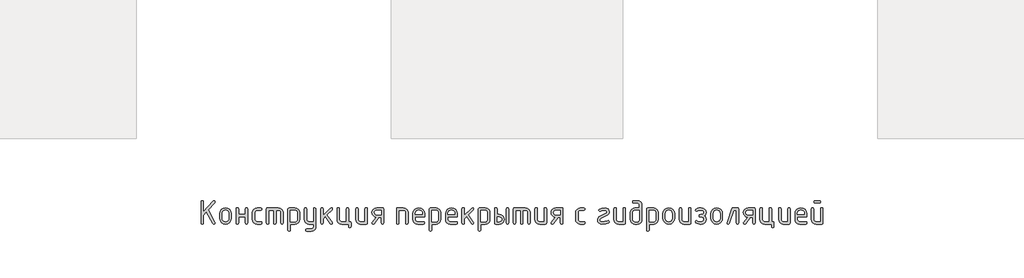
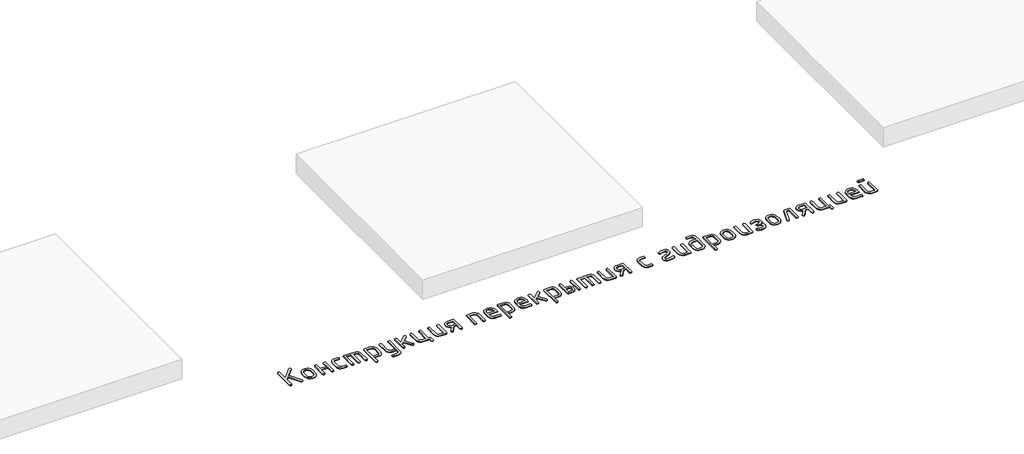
# One storey, part 39 of 42: 1 proxy.
"""IFC4 building model written with IfcOpenShell, lengths in millimetres."""

from ifc_helpers import new_model, si_unit, origin, origin_with_axes, place, context, project, spatial, polyline, outline, extrude, element, save

model = new_model("IFC4")

# Units and contexts
model_context = context("Model", 3, world=origin())
ifc_project = project(units=[si_unit("LENGTHUNIT", "METRE", prefix="MILLI")], contexts=[model_context])

# Site, building, storey
site = spatial("IfcSite", under=ifc_project)
building = spatial("IfcBuilding", under=site)
storey = spatial("IfcBuildingStorey", under=building, Name="Этаж 01", Elevation=0.0)

# Proxy
placement = place(None, origin())
element("IfcBuildingElementProxy", 1, Name="300 мм GOST Common", ObjectType="300 мм GOST Common", at=placement, inside=storey, context=model_context, shape_type="SweptSolid", body=[
    extrude(outline(polyline([(56921.8621686, -44881.6473453), (56882.6408818, -44925.0651484), (56882.6408818, -45025.700837), (56878.7671745, -45037.1403789), (56867.1460525, -45040.9535596), (56855.5249305, -45037.1403789), (56851.6512231, -45025.700837), (56851.6512231, -44751.4746384), (56855.5249305, -44740.0350964), (56867.1460525, -44736.2219157), (56878.7671745, -44740.0350964), (56882.6408818, -44751.4746384), (56882.6408818, -44879.5490872), (57007.4872412, -44741.3061566), (57019.027661, -44736.2219157), (57030.3461496, -44740.0350964), (57034.1189792, -44751.4746384), (57030.0031651, -44761.8852268), (56943.4903679, -44857.6787812), (57032.1014233, -45018.1148267), (57034.1189792, -45025.700837), (57029.4382495, -45036.2324788), (57019.027661, -45040.9535596), (57011.0381396, -45038.9360037), (57005.4696853, -45032.883336), (56921.8621686, -44881.6473453)])), origin_with_axes(), (0.0, 0.0, 1.0), 10.0),
    extrude(outline(polyline([(57094.4035496, -44965.3355643), (57094.4035496, -44904.8088871), (57099.8812139, -44875.7359065), (57116.3142067, -44851.3033045), (57140.5147898, -44834.718995), (57169.2952248, -44829.1908918), (57198.3782932, -44834.6584683), (57222.5183496, -44851.0611978), (57238.7697624, -44875.4332732), (57244.1869, -44904.8088871), (57244.1869, -44965.3355643), (57238.7092357, -44994.4085449), (57222.2762429, -45018.8411469), (57198.0756598, -45035.4254564), (57169.2952248, -45040.9535596), (57140.5147898, -45035.4254564), (57116.3142067, -45018.8411469), (57099.8812139, -44994.4085449), (57094.4035496, -44965.3355643)]), holes=[polyline([(57213.1972413, -44964.4478397), (57213.1972413, -44903.8404603), (57209.9792396, -44886.4087773), (57200.3252346, -44871.7209703), (57186.1317288, -44861.7340686), (57169.2952248, -44858.4051013), (57152.4587208, -44861.7340686), (57138.265215, -44871.7209703), (57128.61121, -44886.4087773), (57125.3932083, -44903.8404603), (57125.3932083, -44964.4478397), (57128.5809466, -44982.0409272), (57138.1441616, -44996.7287342), (57152.3074041, -45006.6551092), (57169.2952248, -45009.9639009), (57186.1317288, -45006.6349337), (57200.3252346, -44996.6480319), (57209.9792396, -44981.9400494), (57213.1972413, -44964.4478397)])]), origin_with_axes(), (0.0, 0.0, 1.0), 10.0),
    extrude(outline(polyline([(57337.1558761, -44947.9845835), (57337.1558761, -45025.4587302), (57333.2821688, -45037.0798523), (57321.6610467, -45040.9535596), (57310.0399247, -45037.1807301), (57306.1662174, -45025.8622414), (57306.1662174, -44844.28221), (57310.0399247, -44832.9637214), (57321.6610467, -44829.1908918), (57333.2821688, -44832.842668), (57337.1558761, -44843.7979966), (57337.1558761, -44916.9949248), (57424.9599091, -44916.9949248), (57424.9599091, -44843.7979966), (57428.8336164, -44832.842668), (57440.4547384, -44829.1908918), (57452.0758604, -44832.9637214), (57455.9495678, -44844.28221), (57455.9495678, -45025.8622414), (57452.0758604, -45037.1807301), (57440.4547384, -45040.9535596), (57428.8336164, -45037.0798523), (57424.9599091, -45025.4587302), (57424.9599091, -44947.9845835), (57337.1558761, -44947.9845835)])), origin_with_axes(), (0.0, 0.0, 1.0), 10.0),
    extrude(outline(polyline([(57548.9185439, -44890.1210801), (57548.9185439, -44980.0233713), (57551.1580309, -44991.4326499), (57557.8764921, -45001.127006), (57567.6818138, -45007.7546772), (57579.1818824, -45009.9639009), (57624.6979437, -45009.9639009), (57636.0164323, -45013.8376082), (57639.7892618, -45025.4587302), (57636.0164323, -45037.0798523), (57624.6979437, -45040.9535596), (57579.1818824, -45040.9535596), (57555.637005, -45036.5754633), (57535.8447816, -45023.4411743), (57522.4078593, -45003.9314087), (57517.9288852, -44980.4268824), (57517.9288852, -44889.717569), (57522.4078593, -44866.2130427), (57535.8447816, -44846.7032771), (57555.637005, -44833.5689881), (57579.1818824, -44829.1908918), (57624.6979437, -44829.1908918), (57636.0164323, -44833.0645992), (57639.7892618, -44844.6857212), (57636.0164323, -44856.3068432), (57624.6979437, -44860.1805505), (57579.1818824, -44860.1805505), (57567.5304971, -44862.3695987), (57557.7554387, -44868.9367431), (57551.1277676, -44878.6109237), (57548.9185439, -44890.1210801)])), origin_with_axes(), (0.0, 0.0, 1.0), 10.0),
    extrude(outline(polyline([(57714.1967236, -44829.1908918), (57853.6501877, -44829.1908918), (57877.5380497, -44833.5992515), (57897.5522042, -44846.8243304), (57911.1101799, -44866.3643594), (57915.6295051, -44889.717569), (57915.6295051, -45025.8622414), (57911.7557978, -45037.1807301), (57900.1346758, -45040.9535596), (57888.5135538, -45037.1807301), (57884.6398464, -45025.8622414), (57884.6398464, -44890.2824846), (57882.4104472, -44878.550397), (57875.7222493, -44868.8560409), (57865.7454354, -44862.3494231), (57853.6501877, -44860.1805505), (57822.660529, -44860.1805505), (57822.660529, -45025.8622414), (57818.7868217, -45037.1807301), (57807.1656997, -45040.9535596), (57795.5445777, -45037.1807301), (57791.6708703, -45025.8622414), (57791.6708703, -44860.1805505), (57729.6915529, -44860.1805505), (57729.6915529, -45025.8622414), (57725.8178456, -45037.1807301), (57714.1967236, -45040.9535596), (57702.5756016, -45037.1807301), (57698.7018942, -45025.8622414), (57698.7018942, -44844.28221), (57702.5756016, -44832.9637214), (57714.1967236, -44829.1908918)])), origin_with_axes(), (0.0, 0.0, 1.0), 10.0),
    extrude(outline(polyline([(57977.6088225, -44844.4436145), (57981.3614765, -44833.0040725), (57992.6194385, -44829.1908918), (58067.5111137, -44829.1908918), (58090.7331821, -44833.5689881), (58110.0411921, -44846.7032771), (58123.0544277, -44866.2130427), (58127.3921729, -44889.717569), (58127.3921729, -44980.4268824), (58123.0846911, -45003.780092), (58110.1622455, -45023.320121), (58091.0055522, -45036.5451999), (58067.9953271, -45040.9535596), (58008.5984812, -45040.9535596), (58008.5984812, -45118.4277063), (58004.7247739, -45130.0488284), (57993.1036519, -45133.9225357), (57981.4825299, -45130.109355), (57977.6088225, -45118.669813), (57977.6088225, -44844.4436145)]), holes=[polyline([(58008.5984812, -44860.1805505), (58008.5984812, -45009.9639009), (58067.1076025, -45009.9639009), (58078.38574, -45007.7748527), (58087.8480772, -45001.2077083), (58094.263905, -44991.5335277), (58096.4025142, -44980.0233713), (58096.4025142, -44890.1210801), (58094.2941683, -44878.459607), (58087.9691305, -44868.8156898), (58078.5370567, -44862.3393353), (58067.1076025, -44860.1805505), (58008.5984812, -44860.1805505)])]), origin_with_axes(), (0.0, 0.0, 1.0), 10.0),
    extrude(outline(polyline([(58308.165182, -45072.4274317), (58308.165182, -45040.9535596), (58248.7683362, -45040.9535596), (58225.7581111, -45036.5451999), (58206.6014177, -45023.320121), (58193.6789722, -45003.780092), (58189.3714903, -44980.4268824), (58189.3714903, -44844.28221), (58193.2451976, -44832.9637214), (58204.8663197, -44829.1908918), (58216.4874417, -44832.9637214), (58220.361149, -44844.28221), (58220.361149, -44979.8619668), (58222.5199338, -44991.291421), (58228.9962883, -45001.0463038), (58238.478801, -45007.7345016), (58249.6560607, -45009.9639009), (58308.165182, -45009.9639009), (58308.165182, -44844.28221), (58312.0388893, -44832.9637214), (58323.6600113, -44829.1908918), (58335.2811334, -44833.0040725), (58339.1548407, -44844.4436145), (58339.1548407, -45072.9923474), (58334.9078855, -45096.4464348), (58322.16702, -45116.1276926), (58303.2322578, -45129.4738249), (58280.4036127, -45133.9225357), (58220.361149, -45133.9225357), (58208.9821337, -45130.0488284), (58205.1891286, -45118.4277063), (58209.7891561, -45107.6136067), (58220.361149, -45102.932877), (58278.8702703, -45102.932877), (58290.2997245, -45100.7640044), (58299.7317983, -45094.2573866), (58306.0568361, -45084.4621527), (58308.165182, -45072.4274317)])), origin_with_axes(), (0.0, 0.0, 1.0), 10.0),
    extrude(outline(polyline([(58432.1238168, -44928.6160468), (58527.3524555, -44833.5488126), (58538.1665551, -44829.1908918), (58549.5455705, -44832.9637214), (58553.3385756, -44844.28221), (58548.7385481, -44854.8542029), (58482.1592032, -44921.3528456), (58550.3525928, -45017.1463999), (58553.3385756, -45026.0236459), (58549.5455705, -45037.2210812), (58538.1665551, -45040.9535596), (58531.0244072, -45039.3395149), (58525.5770063, -45034.4973807), (58460.3695995, -44942.9003426), (58432.1238168, -44971.1461253), (58432.1238168, -45025.7815392), (58428.2501094, -45037.1605545), (58416.6289874, -45040.9535596), (58405.0078654, -45037.1807301), (58401.1341581, -45025.8622414), (58401.1341581, -44844.28221), (58405.0078654, -44832.9637214), (58416.6289874, -44829.1908918), (58428.2501094, -44832.9637214), (58432.1238168, -44844.28221), (58432.1238168, -44928.6160468)])), origin_with_axes(), (0.0, 0.0, 1.0), 10.0),
    extrude(outline(polyline([(58778.1750056, -45009.9639009), (58789.7961276, -45013.8376082), (58793.6698349, -45025.4587302), (58793.6698349, -45071.9432183), (58789.7961276, -45083.5643403), (58778.1750056, -45087.4380476), (58766.5538836, -45083.5643403), (58762.6801762, -45071.9432183), (58762.6801762, -45040.9535596), (58672.7778851, -45040.9535596), (58649.5558167, -45036.5451999), (58630.2478066, -45023.320121), (58617.2345711, -45003.780092), (58612.8968259, -44980.4268824), (58612.8968259, -44844.28221), (58616.7705332, -44832.9637214), (58628.3916552, -44829.1908918), (58640.0127772, -44832.9637214), (58643.8864846, -44844.28221), (58643.8864846, -44979.8619668), (58646.0452694, -44991.291421), (58652.5216238, -45001.0463038), (58662.0041366, -45007.7345016), (58673.1813963, -45009.9639009), (58731.6905175, -45009.9639009), (58731.6905175, -44844.28221), (58735.5642249, -44832.9637214), (58747.1853469, -44829.1908918), (58758.8064689, -44832.9637214), (58762.6801762, -44844.28221), (58762.6801762, -45009.9639009), (58778.1750056, -45009.9639009)])), origin_with_axes(), (0.0, 0.0, 1.0), 10.0),
    extrude(outline(polyline([(59005.4325027, -44844.28221), (59005.4325027, -45025.8622414), (59001.6798487, -45037.1807301), (58990.4218868, -45040.9535596), (58915.5302116, -45040.9535596), (58892.3081431, -45036.5754633), (58873.0001331, -45023.4411743), (58859.9868975, -45003.9314087), (58855.6491523, -44980.4268824), (58855.6491523, -44844.28221), (58859.5228597, -44832.9637214), (58871.1439817, -44829.1908918), (58882.7651037, -44832.9637214), (58886.638811, -44844.28221), (58886.638811, -44979.8619668), (58888.7975959, -44991.291421), (58895.2739503, -45001.0463038), (58904.7564631, -45007.7345016), (58915.9337228, -45009.9639009), (58974.442844, -45009.9639009), (58974.442844, -44844.28221), (58978.3165514, -44832.9637214), (58989.9376734, -44829.1908918), (59001.5587954, -44832.9637214), (59005.4325027, -44844.28221)])), origin_with_axes(), (0.0, 0.0, 1.0), 10.0),
    extrude(outline(polyline([(59118.980549, -44949.7600327), (59097.6045442, -44943.4551705), (59080.2838268, -44930.0283359), (59068.8140215, -44911.4567338), (59064.990753, -44889.717569), (59069.3890249, -44866.2130427), (59082.5838405, -44846.7032771), (59102.1339572, -44833.5689881), (59125.5981324, -44829.1908918), (59201.7003411, -44829.1908918), (59213.3214632, -44832.9637214), (59217.1951705, -44844.28221), (59217.1951705, -45025.8622414), (59213.3214632, -45037.1807301), (59201.7003411, -45040.9535596), (59190.0792191, -45037.1605545), (59186.2055118, -45025.7815392), (59186.2055118, -44950.0828416), (59155.4579598, -44950.0828416), (59092.3488111, -45034.7394874), (59087.002288, -45039.4000415), (59080.1627734, -45040.9535596), (59068.7837581, -45037.1807301), (59064.990753, -45025.8622414), (59067.9767358, -45016.6621865), (59118.980549, -44949.7600327)]), holes=[polyline([(59095.3347938, -44890.5245913), (59097.5742809, -44902.02466), (59104.2927421, -44911.8299817), (59114.0980638, -44918.5484428), (59125.5981324, -44920.7879299), (59186.2055118, -44920.7879299), (59186.2055118, -44860.1805505), (59125.5981324, -44860.1805505), (59113.9467471, -44862.3897742), (59104.1716887, -44869.0174454), (59097.5440176, -44878.8126793), (59095.3347938, -44890.5245913)])]), origin_with_axes(), (0.0, 0.0, 1.0), 10.0),
    extrude(outline(polyline([(59382.4733502, -45025.8622414), (59382.4733502, -44844.28221), (59386.2260042, -44832.9637214), (59397.4839662, -44829.1908918), (59472.3756413, -44829.1908918), (59495.4463931, -44833.5992515), (59514.7846665, -44846.8243304), (59527.8886921, -44866.3643594), (59532.2567006, -44889.717569), (59532.2567006, -45025.8622414), (59528.3829933, -45037.1807301), (59516.7618713, -45040.9535596), (59505.1407492, -45037.1807301), (59501.2670419, -45025.8622414), (59501.2670419, -44890.2824846), (59499.158696, -44878.550397), (59492.8336582, -44868.8560409), (59483.4015844, -44862.3494231), (59471.9721302, -44860.1805505), (59413.4630089, -44860.1805505), (59413.4630089, -45025.8622414), (59409.5893016, -45037.1807301), (59397.9681796, -45040.9535596), (59386.3470576, -45037.1807301), (59382.4733502, -45025.8622414)])), origin_with_axes(), (0.0, 0.0, 1.0), 10.0),
    extrude(outline(polyline([(59625.2256767, -44947.9845835), (59625.2256767, -44978.9742422), (59627.4651638, -44990.7668565), (59634.1836249, -45000.8041971), (59643.9889466, -45007.6739749), (59655.4890153, -45009.9639009), (59731.2684151, -45009.9639009), (59742.6474304, -45013.8376082), (59746.4404355, -45025.4587302), (59742.6474304, -45037.0798523), (59731.2684151, -45040.9535596), (59655.4890153, -45040.9535596), (59631.9441379, -45036.5754633), (59612.1519144, -45023.4411743), (59598.7149921, -45003.9314087), (59594.236018, -44980.4268824), (59594.236018, -44904.8088871), (59599.8549112, -44875.7359065), (59616.7115908, -44851.3033045), (59641.4367384, -44834.718995), (59670.6610357, -44829.1908918), (59700.1072641, -44834.5575905), (59724.5297783, -44850.6576866), (59740.9627712, -44874.5858997), (59746.4404355, -44903.4369491), (59746.4404355, -44947.9845835), (59625.2256767, -44947.9845835)]), holes=[polyline([(59670.6610357, -44856.3875454), (59653.2293527, -44859.7165127), (59638.5415457, -44869.7034144), (59628.5546439, -44884.3912214), (59625.2256767, -44901.8229044), (59625.2256767, -44916.9949248), (59716.0963947, -44916.9949248), (59716.0963947, -44901.8229044), (59712.7674274, -44884.3912214), (59702.7805257, -44869.7034144), (59688.0927187, -44859.7165127), (59670.6610357, -44856.3875454)])]), origin_with_axes(), (0.0, 0.0, 1.0), 10.0),
    extrude(outline(polyline([(59805.9986858, -44844.4436145), (59809.7513398, -44833.0040725), (59821.0093017, -44829.1908918), (59895.9009769, -44829.1908918), (59919.1230454, -44833.5689881), (59938.4310554, -44846.7032771), (59951.444291, -44866.2130427), (59955.7820362, -44889.717569), (59955.7820362, -44980.4268824), (59951.4745543, -45003.780092), (59938.5521087, -45023.320121), (59919.3954154, -45036.5451999), (59896.3851903, -45040.9535596), (59836.9883445, -45040.9535596), (59836.9883445, -45118.4277063), (59833.1146371, -45130.0488284), (59821.4935151, -45133.9225357), (59809.8723931, -45130.109355), (59805.9986858, -45118.669813), (59805.9986858, -44844.4436145)]), holes=[polyline([(59836.9883445, -44860.1805505), (59836.9883445, -45009.9639009), (59895.4974657, -45009.9639009), (59906.7756032, -45007.7748527), (59916.2379404, -45001.2077083), (59922.6537682, -44991.5335277), (59924.7923775, -44980.0233713), (59924.7923775, -44890.1210801), (59922.6840315, -44878.459607), (59916.3589938, -44868.8156898), (59906.9269199, -44862.3393353), (59895.4974657, -44860.1805505), (59836.9883445, -44860.1805505)])]), origin_with_axes(), (0.0, 0.0, 1.0), 10.0),
    extrude(outline(polyline([(60048.7510123, -44947.9845835), (60048.7510123, -44978.9742422), (60050.9904993, -44990.7668565), (60057.7089605, -45000.8041971), (60067.5142822, -45007.6739749), (60079.0143508, -45009.9639009), (60154.7937506, -45009.9639009), (60166.1727659, -45013.8376082), (60169.965771, -45025.4587302), (60166.1727659, -45037.0798523), (60154.7937506, -45040.9535596), (60079.0143508, -45040.9535596), (60055.4694734, -45036.5754633), (60035.67725, -45023.4411743), (60022.2403277, -45003.9314087), (60017.7613536, -44980.4268824), (60017.7613536, -44904.8088871), (60023.3802467, -44875.7359065), (60040.2369263, -44851.3033045), (60064.9620739, -44834.718995), (60094.1863712, -44829.1908918), (60123.6325997, -44834.5575905), (60148.0551139, -44850.6576866), (60164.4881067, -44874.5858997), (60169.965771, -44903.4369491), (60169.965771, -44947.9845835), (60048.7510123, -44947.9845835)]), holes=[polyline([(60094.1863712, -44856.3875454), (60076.7546882, -44859.7165127), (60062.0668812, -44869.7034144), (60052.0799795, -44884.3912214), (60048.7510123, -44901.8229044), (60048.7510123, -44916.9949248), (60139.6217302, -44916.9949248), (60139.6217302, -44901.8229044), (60136.292763, -44884.3912214), (60126.3058612, -44869.7034144), (60111.6180542, -44859.7165127), (60094.1863712, -44856.3875454)])]), origin_with_axes(), (0.0, 0.0, 1.0), 10.0),
    extrude(outline(polyline([(60260.51368, -44928.6160468), (60355.7423187, -44833.5488126), (60366.5564184, -44829.1908918), (60377.9354337, -44832.9637214), (60381.7284388, -44844.28221), (60377.1284113, -44854.8542029), (60310.5490665, -44921.3528456), (60378.7424561, -45017.1463999), (60381.7284388, -45026.0236459), (60377.9354337, -45037.2210812), (60366.5564184, -45040.9535596), (60359.4142705, -45039.3395149), (60353.9668695, -45034.4973807), (60288.7594627, -44942.9003426), (60260.51368, -44971.1461253), (60260.51368, -45025.7815392), (60256.6399727, -45037.1605545), (60245.0188507, -45040.9535596), (60233.3977287, -45037.1807301), (60229.5240213, -45025.8622414), (60229.5240213, -44844.28221), (60233.3977287, -44832.9637214), (60245.0188507, -44829.1908918), (60256.6399727, -44832.9637214), (60260.51368, -44844.28221), (60260.51368, -44928.6160468)])), origin_with_axes(), (0.0, 0.0, 1.0), 10.0),
    extrude(outline(polyline([(60441.2866891, -44844.4436145), (60445.0393431, -44833.0040725), (60456.297305, -44829.1908918), (60531.1889802, -44829.1908918), (60554.4110487, -44833.5689881), (60573.7190587, -44846.7032771), (60586.7322943, -44866.2130427), (60591.0700395, -44889.717569), (60591.0700395, -44980.4268824), (60586.7625576, -45003.780092), (60573.8401121, -45023.320121), (60554.6834187, -45036.5451999), (60531.6731936, -45040.9535596), (60472.2763478, -45040.9535596), (60472.2763478, -45118.4277063), (60468.4026405, -45130.0488284), (60456.7815185, -45133.9225357), (60445.1603964, -45130.109355), (60441.2866891, -45118.669813), (60441.2866891, -44844.4436145)]), holes=[polyline([(60472.2763478, -44860.1805505), (60472.2763478, -45009.9639009), (60530.785469, -45009.9639009), (60542.0636066, -45007.7748527), (60551.5259437, -45001.2077083), (60557.9417715, -44991.5335277), (60560.0803808, -44980.0233713), (60560.0803808, -44890.1210801), (60557.9720349, -44878.459607), (60551.6469971, -44868.8156898), (60542.2149232, -44862.3393353), (60530.785469, -44860.1805505), (60472.2763478, -44860.1805505)])]), origin_with_axes(), (0.0, 0.0, 1.0), 10.0),
    extrude(outline(polyline([(60802.8327073, -44844.28221), (60806.7064146, -44832.9637214), (60818.3275366, -44829.1908918), (60829.9486586, -44832.9637214), (60833.822366, -44844.28221), (60833.822366, -45025.8622414), (60829.9486586, -45037.1807301), (60818.3275366, -45040.9535596), (60806.7064146, -45037.1807301), (60802.8327073, -45025.8622414), (60802.8327073, -44844.28221)])), origin_with_axes(), (0.0, 0.0, 1.0), 10.0),
    extrude(outline(polyline([(60774.9097335, -44978.9742422), (60770.5215494, -45003.0134208), (60757.3569972, -45022.997312), (60737.8169682, -45036.4644977), (60714.3023542, -45040.9535596), (60668.5441862, -45040.9535596), (60656.9230642, -45037.1807301), (60653.0493569, -45025.8622414), (60653.0493569, -44844.28221), (60656.9230642, -44832.9637214), (60668.5441862, -44829.1908918), (60680.1653082, -44832.842668), (60684.0390156, -44843.7979966), (60684.0390156, -44916.9949248), (60714.3023542, -44916.9949248), (60737.8169682, -44921.4839867), (60757.3569972, -44934.9511723), (60770.5215494, -44954.9350636), (60774.9097335, -44978.9742422)]), holes=[polyline([(60744.646395, -44978.9742422), (60742.4674346, -44966.8789945), (60735.9305535, -44956.9021806), (60726.1655829, -44950.2139828), (60714.3023542, -44947.9845835), (60684.0390156, -44947.9845835), (60684.0390156, -45009.9639009), (60714.3023542, -45009.9639009), (60726.0142662, -45007.7042383), (60735.8095001, -45000.9252504), (60742.4371712, -44990.9181732), (60744.646395, -44978.9742422)])]), origin_with_axes(), (0.0, 0.0, 1.0), 10.0),
    extrude(outline(polyline([(60911.2965127, -44829.1908918), (61050.7499769, -44829.1908918), (61074.6378388, -44833.5992515), (61094.6519933, -44846.8243304), (61108.209969, -44866.3643594), (61112.7292943, -44889.717569), (61112.7292943, -45025.8622414), (61108.8555869, -45037.1807301), (61097.2344649, -45040.9535596), (61085.6133429, -45037.1807301), (61081.7396356, -45025.8622414), (61081.7396356, -44890.2824846), (61079.5102363, -44878.550397), (61072.8220385, -44868.8560409), (61062.8452245, -44862.3494231), (61050.7499769, -44860.1805505), (61019.7603182, -44860.1805505), (61019.7603182, -45025.8622414), (61015.8866108, -45037.1807301), (61004.2654888, -45040.9535596), (60992.6443668, -45037.1807301), (60988.7706595, -45025.8622414), (60988.7706595, -44860.1805505), (60926.7913421, -44860.1805505), (60926.7913421, -45025.8622414), (60922.9176347, -45037.1807301), (60911.2965127, -45040.9535596), (60899.6753907, -45037.1807301), (60895.8016834, -45025.8622414), (60895.8016834, -44844.28221), (60899.6753907, -44832.9637214), (60911.2965127, -44829.1908918)])), origin_with_axes(), (0.0, 0.0, 1.0), 10.0),
    extrude(outline(polyline([(61324.491962, -44844.28221), (61324.491962, -45025.8622414), (61320.739308, -45037.1807301), (61309.4813461, -45040.9535596), (61234.5896709, -45040.9535596), (61211.3676024, -45036.5754633), (61192.0595924, -45023.4411743), (61179.0463568, -45003.9314087), (61174.7086116, -44980.4268824), (61174.7086116, -44844.28221), (61178.582319, -44832.9637214), (61190.203441, -44829.1908918), (61201.824563, -44832.9637214), (61205.6982703, -44844.28221), (61205.6982703, -44979.8619668), (61207.8570552, -44991.291421), (61214.3334096, -45001.0463038), (61223.8159224, -45007.7345016), (61234.9931821, -45009.9639009), (61293.5023033, -45009.9639009), (61293.5023033, -44844.28221), (61297.3760107, -44832.9637214), (61308.9971327, -44829.1908918), (61320.6182547, -44832.9637214), (61324.491962, -44844.28221)])), origin_with_axes(), (0.0, 0.0, 1.0), 10.0),
    extrude(outline(polyline([(61438.0400084, -44949.7600327), (61416.6640035, -44943.4551705), (61399.3432861, -44930.0283359), (61387.8734808, -44911.4567338), (61384.0502123, -44889.717569), (61388.4484842, -44866.2130427), (61401.6432998, -44846.7032771), (61421.1934165, -44833.5689881), (61444.6575917, -44829.1908918), (61520.7598005, -44829.1908918), (61532.3809225, -44832.9637214), (61536.2546298, -44844.28221), (61536.2546298, -45025.8622414), (61532.3809225, -45037.1807301), (61520.7598005, -45040.9535596), (61509.1386784, -45037.1605545), (61505.2649711, -45025.7815392), (61505.2649711, -44950.0828416), (61474.5174191, -44950.0828416), (61411.4082704, -45034.7394874), (61406.0617473, -45039.4000415), (61399.2222327, -45040.9535596), (61387.8432174, -45037.1807301), (61384.0502123, -45025.8622414), (61387.0361951, -45016.6621865), (61438.0400084, -44949.7600327)]), holes=[polyline([(61414.3942531, -44890.5245913), (61416.6337402, -44902.02466), (61423.3522014, -44911.8299817), (61433.1575231, -44918.5484428), (61444.6575917, -44920.7879299), (61505.2649711, -44920.7879299), (61505.2649711, -44860.1805505), (61444.6575917, -44860.1805505), (61433.0062064, -44862.3897742), (61423.231148, -44869.0174454), (61416.6034769, -44878.8126793), (61414.3942531, -44890.5245913)])]), origin_with_axes(), (0.0, 0.0, 1.0), 10.0),
    extrude(outline(polyline([(61732.5224682, -44890.1210801), (61732.5224682, -44980.0233713), (61734.7619553, -44991.4326499), (61741.4804164, -45001.127006), (61751.2857381, -45007.7546772), (61762.7858068, -45009.9639009), (61808.301868, -45009.9639009), (61819.6203566, -45013.8376082), (61823.3931862, -45025.4587302), (61819.6203566, -45037.0798523), (61808.301868, -45040.9535596), (61762.7858068, -45040.9535596), (61739.2409294, -45036.5754633), (61719.448706, -45023.4411743), (61706.0117836, -45003.9314087), (61701.5328095, -44980.4268824), (61701.5328095, -44889.717569), (61706.0117836, -44866.2130427), (61719.448706, -44846.7032771), (61739.2409294, -44833.5689881), (61762.7858068, -44829.1908918), (61808.301868, -44829.1908918), (61819.6203566, -44833.0645992), (61823.3931862, -44844.6857212), (61819.6203566, -44856.3068432), (61808.301868, -44860.1805505), (61762.7858068, -44860.1805505), (61751.1344215, -44862.3695987), (61741.3593631, -44868.9367431), (61734.7316919, -44878.6109237), (61732.5224682, -44890.1210801)])), origin_with_axes(), (0.0, 0.0, 1.0), 10.0),
    extrude(outline(polyline([(62121.26514, -44994.7918805), (62132.6441553, -44998.5848856), (62136.4371604, -45009.9639009), (62134.3187267, -45017.9130712), (62127.9634256, -45023.8446855), (62111.3841599, -45031.3298179), (62090.8605725, -45036.6763411), (62037.9804322, -45040.9535596), (62017.5224154, -45037.1000278), (62000.3731902, -45025.5394325), (61988.7520682, -45008.5112606), (61984.8783608, -44988.2549994), (61986.7748634, -44972.8660917), (61992.464371, -44959.7872855), (62001.9468838, -44949.0185809), (62015.2224016, -44940.5599778), (62093.7456774, -44902.8720335), (62103.006259, -44894.8623365), (62106.0931196, -44882.7771766), (62104.428636, -44874.1016863), (62099.4351851, -44866.7981339), (62092.1013694, -44861.8349464), (62083.4157912, -44860.1805505), (62045.082229, -44863.40864), (62022.3241984, -44873.4964195), (62015.2224016, -44875.3525709), (62004.6504087, -44870.7525435), (62000.0503812, -44860.1805505), (62002.0679371, -44852.5340136), (62008.1206048, -44846.5418726), (62040.2602704, -44833.528637), (62083.4157912, -44829.1908918), (62103.8132814, -44833.0444236), (62120.942331, -44844.6050189), (62132.5634531, -44861.6331908), (62136.4371604, -44881.8894521), (62134.5255262, -44897.2783597), (62128.7906235, -44910.3571659), (62119.2324524, -44921.1258705), (62105.8510129, -44929.5844736), (62028.0540572, -44966.7882045), (62018.4303155, -44975.0400082), (62015.2224016, -44987.3672748), (62016.8868852, -44996.0427651), (62021.8803361, -45003.3463175), (62029.2343274, -45008.3095051), (62037.9804322, -45009.9639009), (62079.5219083, -45006.4533536), (62115.5352812, -44995.9217118), (62121.26514, -44994.7918805)])), origin_with_axes(), (0.0, 0.0, 1.0), 10.0),
    extrude(outline(polyline([(62347.1506991, -44844.28221), (62347.1506991, -45025.8622414), (62343.3980451, -45037.1807301), (62332.1400832, -45040.9535596), (62257.248408, -45040.9535596), (62234.0263395, -45036.5754633), (62214.7183295, -45023.4411743), (62201.7050939, -45003.9314087), (62197.3673487, -44980.4268824), (62197.3673487, -44844.28221), (62201.2410561, -44832.9637214), (62212.8621781, -44829.1908918), (62224.4833001, -44832.9637214), (62228.3570074, -44844.28221), (62228.3570074, -44979.8619668), (62230.5157922, -44991.291421), (62236.9921467, -45001.0463038), (62246.4746594, -45007.7345016), (62257.6519192, -45009.9639009), (62316.1610404, -45009.9639009), (62316.1610404, -44844.28221), (62320.0347477, -44832.9637214), (62331.6558697, -44829.1908918), (62343.2769918, -44832.9637214), (62347.1506991, -44844.28221)])), origin_with_axes(), (0.0, 0.0, 1.0), 10.0),
    extrude(outline(polyline([(62558.9133669, -44797.152104), (62558.9133669, -44980.0233713), (62554.5453583, -45003.6287754), (62541.4413327, -45023.2797699), (62522.1030594, -45036.5351122), (62499.0323076, -45040.9535596), (62469.0110757, -45040.9535596), (62445.7890073, -45036.5451999), (62426.4809973, -45023.320121), (62413.4677617, -45003.780092), (62409.1300165, -44980.4268824), (62409.1300165, -44889.717569), (62413.4576739, -44866.2130427), (62426.4406462, -44846.7032771), (62445.617515, -44833.5689881), (62468.5268623, -44829.1908918), (62527.9237082, -44829.1908918), (62527.9237082, -44798.2012331), (62525.8153623, -44786.1059855), (62519.4903245, -44776.1291715), (62510.0582506, -44769.4409737), (62498.6287964, -44767.2115744), (62454.7267799, -44767.2115744), (62443.7714514, -44763.3378671), (62440.1196752, -44751.7167451), (62443.8319781, -44740.0956231), (62454.9688867, -44736.2219157), (62499.516521, -44736.2219157), (62522.5267461, -44740.6706265), (62541.6834394, -44754.0167588), (62554.605885, -44773.6980167), (62558.9133669, -44797.152104)]), holes=[polyline([(62527.9237082, -44980.0233713), (62527.9237082, -44860.1805505), (62469.4145869, -44860.1805505), (62458.1364494, -44862.3695987), (62448.6741122, -44868.9367431), (62442.2582845, -44878.6109237), (62440.1196752, -44890.1210801), (62440.1196752, -44980.0233713), (62442.27846, -44991.4326499), (62448.7548145, -45001.127006), (62458.2373272, -45007.7546772), (62469.4145869, -45009.9639009), (62498.6287964, -45009.9639009), (62509.9069339, -45007.7748527), (62519.3692711, -45001.2077083), (62525.7850989, -44991.5335277), (62527.9237082, -44980.0233713)])]), origin_with_axes(), (0.0, 0.0, 1.0), 10.0),
    extrude(outline(polyline([(62620.8926843, -44844.4436145), (62624.6453383, -44833.0040725), (62635.9033002, -44829.1908918), (62710.7949754, -44829.1908918), (62734.0170439, -44833.5689881), (62753.3250539, -44846.7032771), (62766.3382895, -44866.2130427), (62770.6760346, -44889.717569), (62770.6760346, -44980.4268824), (62766.3685528, -45003.780092), (62753.4461072, -45023.320121), (62734.2894139, -45036.5451999), (62711.2791888, -45040.9535596), (62651.882343, -45040.9535596), (62651.882343, -45118.4277063), (62648.0086356, -45130.0488284), (62636.3875136, -45133.9225357), (62624.7663916, -45130.109355), (62620.8926843, -45118.669813), (62620.8926843, -44844.4436145)]), holes=[polyline([(62651.882343, -44860.1805505), (62651.882343, -45009.9639009), (62710.3914642, -45009.9639009), (62721.6696017, -45007.7748527), (62731.1319389, -45001.2077083), (62737.5477667, -44991.5335277), (62739.6863759, -44980.0233713), (62739.6863759, -44890.1210801), (62737.57803, -44878.459607), (62731.2529923, -44868.8156898), (62721.8209184, -44862.3393353), (62710.3914642, -44860.1805505), (62651.882343, -44860.1805505)])]), origin_with_axes(), (0.0, 0.0, 1.0), 10.0),
    extrude(outline(polyline([(62832.655352, -44965.3355643), (62832.655352, -44904.8088871), (62838.1330163, -44875.7359065), (62854.5660092, -44851.3033045), (62878.7665923, -44834.718995), (62907.5470272, -44829.1908918), (62936.6300956, -44834.6584683), (62960.770152, -44851.0611978), (62977.0215648, -44875.4332732), (62982.4387024, -44904.8088871), (62982.4387024, -44965.3355643), (62976.9610381, -44994.4085449), (62960.5280453, -45018.8411469), (62936.3274622, -45035.4254564), (62907.5470272, -45040.9535596), (62878.7665923, -45035.4254564), (62854.5660092, -45018.8411469), (62838.1330163, -44994.4085449), (62832.655352, -44965.3355643)]), holes=[polyline([(62951.4490437, -44964.4478397), (62951.4490437, -44903.8404603), (62948.2310421, -44886.4087773), (62938.5770371, -44871.7209703), (62924.3835313, -44861.7340686), (62907.5470272, -44858.4051013), (62890.7105232, -44861.7340686), (62876.5170174, -44871.7209703), (62866.8630124, -44886.4087773), (62863.6450107, -44903.8404603), (62863.6450107, -44964.4478397), (62866.8327491, -44982.0409272), (62876.3959641, -44996.7287342), (62890.5592065, -45006.6551092), (62907.5470272, -45009.9639009), (62924.3835313, -45006.6349337), (62938.5770371, -44996.6480319), (62948.2310421, -44981.9400494), (62951.4490437, -44964.4478397)])]), origin_with_axes(), (0.0, 0.0, 1.0), 10.0),
    extrude(outline(polyline([(63194.2013702, -44844.28221), (63194.2013702, -45025.8622414), (63190.4487162, -45037.1807301), (63179.1907543, -45040.9535596), (63104.2990791, -45040.9535596), (63081.0770106, -45036.5754633), (63061.7690006, -45023.4411743), (63048.755765, -45003.9314087), (63044.4180198, -44980.4268824), (63044.4180198, -44844.28221), (63048.2917272, -44832.9637214), (63059.9128492, -44829.1908918), (63071.5339712, -44832.9637214), (63075.4076785, -44844.28221), (63075.4076785, -44979.8619668), (63077.5664633, -44991.291421), (63084.0428178, -45001.0463038), (63093.5253305, -45007.7345016), (63104.7025903, -45009.9639009), (63163.2117115, -45009.9639009), (63163.2117115, -44844.28221), (63167.0854188, -44832.9637214), (63178.7065409, -44829.1908918), (63190.3276629, -44832.9637214), (63194.2013702, -44844.28221)])), origin_with_axes(), (0.0, 0.0, 1.0), 10.0),
    extrude(outline(polyline([(63359.4795499, -44978.89354), (63357.461994, -44965.8197777), (63351.4093263, -44955.9741049), (63343.5005072, -44950.4661773), (63333.4934299, -44947.9845835), (63313.9634887, -44947.9845835), (63303.2300913, -44943.5459605), (63298.8721705, -44932.5704564), (63303.3511447, -44921.5546011), (63318.3214095, -44916.9949248), (63322.9214369, -44916.9949248), (63327.7635711, -44916.9949248), (63341.3618979, -44914.9471056), (63351.3286241, -44908.8036478), (63357.4418185, -44899.6540318), (63359.4795499, -44888.5877377), (63357.2905018, -44877.5214435), (63350.7233573, -44868.3718275), (63340.9482989, -44862.2283698), (63329.1355091, -44860.1805505), (63313.9634887, -44860.1805505), (63282.8931278, -44867.8876141), (63264.8965291, -44875.5946776), (63256.8263055, -44870.0665744), (63253.3561093, -44859.4542304), (63259.5701815, -44847.8532839), (63278.2123981, -44837.4225199), (63297.480057, -44831.2487988), (63313.9634887, -44829.1908918), (63329.1355091, -44829.1908918), (63352.7409132, -44833.4681103), (63372.5533122, -44846.2997659), (63385.9902345, -44865.3253181), (63390.4692086, -44888.1842265), (63385.1226855, -44915.0378956), (63378.4395315, -44924.9390512), (63369.083116, -44932.4897541), (63378.4395315, -44940.6003289), (63385.1226855, -44951.0512685), (63390.4692086, -44978.9742422), (63385.9902345, -45003.0134208), (63372.5533122, -45022.997312), (63352.7409132, -45036.4644977), (63329.1355091, -45040.9535596), (63313.9634887, -45040.9535596), (63297.0563702, -45038.9561792), (63277.9702914, -45032.9640382), (63259.5096548, -45022.7148542), (63253.3561093, -45010.690221), (63256.8263055, -45000.0375258), (63265.1386358, -44994.5497738), (63283.5790968, -45002.2568373), (63313.9634887, -45009.9639009), (63329.1355091, -45009.9639009), (63340.8474211, -45007.6941505), (63350.6426551, -45000.8848993), (63357.2703262, -44990.8475587), (63359.4795499, -44978.89354)])), origin_with_axes(), (0.0, 0.0, 1.0), 10.0),
    extrude(outline(polyline([(63452.448526, -44965.3355643), (63452.448526, -44904.8088871), (63457.9261903, -44875.7359065), (63474.3591832, -44851.3033045), (63498.5597662, -44834.718995), (63527.3402012, -44829.1908918), (63556.4232696, -44834.6584683), (63580.563326, -44851.0611978), (63596.8147388, -44875.4332732), (63602.2318764, -44904.8088871), (63602.2318764, -44965.3355643), (63596.7542121, -44994.4085449), (63580.3212193, -45018.8411469), (63556.1206362, -45035.4254564), (63527.3402012, -45040.9535596), (63498.5597662, -45035.4254564), (63474.3591832, -45018.8411469), (63457.9261903, -44994.4085449), (63452.448526, -44965.3355643)]), holes=[polyline([(63571.2422177, -44964.4478397), (63571.2422177, -44903.8404603), (63568.024216, -44886.4087773), (63558.370211, -44871.7209703), (63544.1767052, -44861.7340686), (63527.3402012, -44858.4051013), (63510.5036972, -44861.7340686), (63496.3101914, -44871.7209703), (63486.6561864, -44886.4087773), (63483.4381847, -44903.8404603), (63483.4381847, -44964.4478397), (63486.6259231, -44982.0409272), (63496.189138, -44996.7287342), (63510.3523805, -45006.6551092), (63527.3402012, -45009.9639009), (63544.1767052, -45006.6349337), (63558.370211, -44996.6480319), (63568.024216, -44981.9400494), (63571.2422177, -44964.4478397)])]), origin_with_axes(), (0.0, 0.0, 1.0), 10.0),
    extrude(outline(polyline([(63737.5695265, -44829.1908918), (63798.4997148, -44829.1908918), (63810.1208368, -44832.9637214), (63813.9945442, -44844.28221), (63813.9945442, -45025.8622414), (63810.1208368, -45037.1807301), (63798.4997148, -45040.9535596), (63786.8785928, -45037.1807301), (63783.0048855, -45025.8622414), (63783.0048855, -44860.1805505), (63748.3836262, -44860.1805505), (63691.2464429, -45030.7043756), (63685.9402709, -45038.3912636), (63676.9621471, -45040.9535596), (63665.5831318, -45037.1202034), (63661.7901267, -45025.6201347), (63662.5164468, -45021.0201073), (63722.3975061, -44841.538334), (63728.2887693, -44832.2777524), (63737.5695265, -44829.1908918)])), origin_with_axes(), (0.0, 0.0, 1.0), 10.0),
    extrude(outline(polyline([(63927.5425905, -44949.7600327), (63906.1665857, -44943.4551705), (63888.8458683, -44930.0283359), (63877.3760629, -44911.4567338), (63873.5527945, -44889.717569), (63877.9510664, -44866.2130427), (63891.145882, -44846.7032771), (63910.6959987, -44833.5689881), (63934.1601739, -44829.1908918), (64010.2623826, -44829.1908918), (64021.8835046, -44832.9637214), (64025.757212, -44844.28221), (64025.757212, -45025.8622414), (64021.8835046, -45037.1807301), (64010.2623826, -45040.9535596), (63998.6412606, -45037.1605545), (63994.7675533, -45025.7815392), (63994.7675533, -44950.0828416), (63964.0200013, -44950.0828416), (63900.9108526, -45034.7394874), (63895.5643294, -45039.4000415), (63888.7248149, -45040.9535596), (63877.3457996, -45037.1807301), (63873.5527945, -45025.8622414), (63876.5387772, -45016.6621865), (63927.5425905, -44949.7600327)]), holes=[polyline([(63903.8968353, -44890.5245913), (63906.1363224, -44902.02466), (63912.8547835, -44911.8299817), (63922.6601052, -44918.5484428), (63934.1601739, -44920.7879299), (63994.7675533, -44920.7879299), (63994.7675533, -44860.1805505), (63934.1601739, -44860.1805505), (63922.5087885, -44862.3897742), (63912.7337302, -44869.0174454), (63906.106059, -44878.8126793), (63903.8968353, -44890.5245913)])]), origin_with_axes(), (0.0, 0.0, 1.0), 10.0),
    extrude(outline(polyline([(64253.0147091, -45009.9639009), (64264.6358311, -45013.8376082), (64268.5095384, -45025.4587302), (64268.5095384, -45071.9432183), (64264.6358311, -45083.5643403), (64253.0147091, -45087.4380476), (64241.3935871, -45083.5643403), (64237.5198797, -45071.9432183), (64237.5198797, -45040.9535596), (64147.6175886, -45040.9535596), (64124.3955201, -45036.5451999), (64105.0875101, -45023.320121), (64092.0742746, -45003.780092), (64087.7365294, -44980.4268824), (64087.7365294, -44844.28221), (64091.6102367, -44832.9637214), (64103.2313587, -44829.1908918), (64114.8524807, -44832.9637214), (64118.7261881, -44844.28221), (64118.7261881, -44979.8619668), (64120.8849729, -44991.291421), (64127.3613273, -45001.0463038), (64136.8438401, -45007.7345016), (64148.0210998, -45009.9639009), (64206.530221, -45009.9639009), (64206.530221, -44844.28221), (64210.4039284, -44832.9637214), (64222.0250504, -44829.1908918), (64233.6461724, -44832.9637214), (64237.5198797, -44844.28221), (64237.5198797, -45009.9639009), (64253.0147091, -45009.9639009)])), origin_with_axes(), (0.0, 0.0, 1.0), 10.0),
    extrude(outline(polyline([(64480.2722062, -44844.28221), (64480.2722062, -45025.8622414), (64476.5195522, -45037.1807301), (64465.2615903, -45040.9535596), (64390.3699151, -45040.9535596), (64367.1478466, -45036.5754633), (64347.8398366, -45023.4411743), (64334.826601, -45003.9314087), (64330.4888558, -44980.4268824), (64330.4888558, -44844.28221), (64334.3625632, -44832.9637214), (64345.9836852, -44829.1908918), (64357.6048072, -44832.9637214), (64361.4785145, -44844.28221), (64361.4785145, -44979.8619668), (64363.6372993, -44991.291421), (64370.1136538, -45001.0463038), (64379.5961666, -45007.7345016), (64390.7734263, -45009.9639009), (64449.2825475, -45009.9639009), (64449.2825475, -44844.28221), (64453.1562548, -44832.9637214), (64464.7773769, -44829.1908918), (64476.3984989, -44832.9637214), (64480.2722062, -44844.28221)])), origin_with_axes(), (0.0, 0.0, 1.0), 10.0),
    extrude(outline(polyline([(64573.2411823, -44947.9845835), (64573.2411823, -44978.9742422), (64575.4806694, -44990.7668565), (64582.1991305, -45000.8041971), (64592.0044522, -45007.6739749), (64603.5045209, -45009.9639009), (64679.2839207, -45009.9639009), (64690.662936, -45013.8376082), (64694.4559411, -45025.4587302), (64690.662936, -45037.0798523), (64679.2839207, -45040.9535596), (64603.5045209, -45040.9535596), (64579.9596435, -45036.5754633), (64560.16742, -45023.4411743), (64546.7304977, -45003.9314087), (64542.2515236, -44980.4268824), (64542.2515236, -44904.8088871), (64547.8704168, -44875.7359065), (64564.7270964, -44851.3033045), (64589.452244, -44834.718995), (64618.6765413, -44829.1908918), (64648.1227697, -44834.5575905), (64672.5452839, -44850.6576866), (64688.9782768, -44874.5858997), (64694.4559411, -44903.4369491), (64694.4559411, -44947.9845835), (64573.2411823, -44947.9845835)]), holes=[polyline([(64618.6765413, -44856.3875454), (64601.2448583, -44859.7165127), (64586.5570513, -44869.7034144), (64576.5701495, -44884.3912214), (64573.2411823, -44901.8229044), (64573.2411823, -44916.9949248), (64664.1119003, -44916.9949248), (64664.1119003, -44901.8229044), (64660.782933, -44884.3912214), (64650.7960313, -44869.7034144), (64636.1082243, -44859.7165127), (64618.6765413, -44856.3875454)])]), origin_with_axes(), (0.0, 0.0, 1.0), 10.0),
    extrude(outline(polyline([(64858.1200761, -44767.2115744), (64799.6916571, -44767.2115744), (64788.6758018, -44763.3378671), (64785.0038501, -44751.7167451), (64788.6758018, -44740.0956231), (64799.6916571, -44736.2219157), (64858.1200761, -44736.2219157), (64869.1359313, -44740.0956231), (64872.8078831, -44751.7167451), (64869.1359313, -44763.3378671), (64858.1200761, -44767.2115744)])), origin_with_axes(), (0.0, 0.0, 1.0), 10.0),
    extrude(outline(polyline([(64903.7975418, -44843.2330809), (64903.7975418, -45025.4587302), (64900.0448878, -45037.0798523), (64888.7869258, -45040.9535596), (64813.8952506, -45040.9535596), (64790.6731822, -45036.4745855), (64771.3651722, -45023.0376632), (64758.3519366, -45003.2252642), (64754.0141914, -44979.6198601), (64754.0141914, -44843.2330809), (64757.8878987, -44831.9145923), (64769.5090207, -44828.1417627), (64781.1301427, -44831.9145923), (64785.0038501, -44843.2330809), (64785.0038501, -44979.6198601), (64787.1626349, -44991.1804554), (64793.6389894, -45001.0059527), (64803.1215021, -45007.7244138), (64814.2987618, -45009.9639009), (64872.8078831, -45009.9639009), (64872.8078831, -44843.2330809), (64876.6815904, -44831.9145923), (64888.3027124, -44828.1417627), (64899.9238344, -44831.9145923), (64903.7975418, -44843.2330809)])), origin_with_axes(), (0.0, 0.0, 1.0), 10.0),
])

save(model, "model.ifc")
